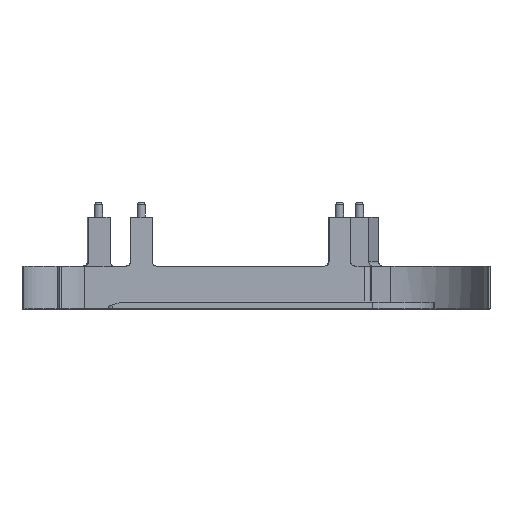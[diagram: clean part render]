
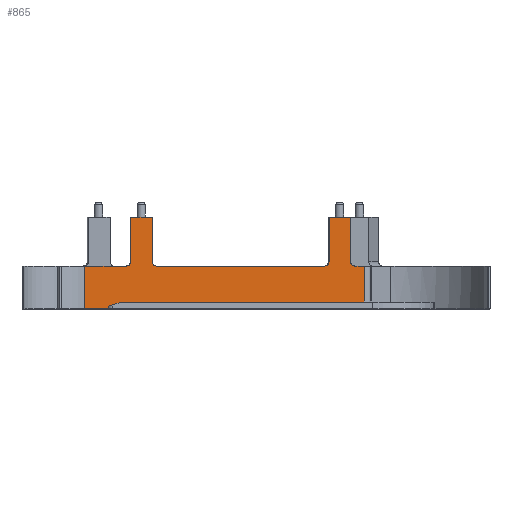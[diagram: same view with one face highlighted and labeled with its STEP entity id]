
A CAD part, front view. The second image highlights one B-rep face of the part: STEP entity #865.
In plain terms, the highlighted planar face has unit normal (0.035, -0.999, 0).
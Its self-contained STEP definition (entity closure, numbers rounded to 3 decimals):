
#601=PLANE('',#6894);
#865=ADVANCED_FACE('',(#1207),#601,.T.);
#1207=FACE_OUTER_BOUND('',#1571,.T.);
#1571=EDGE_LOOP('',(#2878,#2879,#2880,#2881,#2882,#2883,#2884,#2885,#2886,
#2887,#2888,#2889,#2890,#2891,#2892,#2893,#2894,#2895,#2896,#2897,#2898,#2899)
);
#2878=ORIENTED_EDGE('',*,*,#5341,.F.);
#2879=ORIENTED_EDGE('',*,*,#5381,.T.);
#2880=ORIENTED_EDGE('',*,*,#5362,.F.);
#2881=ORIENTED_EDGE('',*,*,#5227,.F.);
#2882=ORIENTED_EDGE('',*,*,#5358,.F.);
#2883=ORIENTED_EDGE('',*,*,#5426,.F.);
#2884=ORIENTED_EDGE('',*,*,#5428,.F.);
#2885=ORIENTED_EDGE('',*,*,#5453,.F.);
#2886=ORIENTED_EDGE('',*,*,#5289,.F.);
#2887=ORIENTED_EDGE('',*,*,#5475,.F.);
#2888=ORIENTED_EDGE('',*,*,#5479,.T.);
#2889=ORIENTED_EDGE('',*,*,#5472,.T.);
#2890=ORIENTED_EDGE('',*,*,#5277,.T.);
#2891=ORIENTED_EDGE('',*,*,#5452,.F.);
#2892=ORIENTED_EDGE('',*,*,#5286,.T.);
#2893=ORIENTED_EDGE('',*,*,#5490,.F.);
#2894=ORIENTED_EDGE('',*,*,#5491,.F.);
#2895=ORIENTED_EDGE('',*,*,#5492,.T.);
#2896=ORIENTED_EDGE('',*,*,#5281,.T.);
#2897=ORIENTED_EDGE('',*,*,#5451,.F.);
#2898=ORIENTED_EDGE('',*,*,#5427,.T.);
#2899=ORIENTED_EDGE('',*,*,#5157,.F.);
#3888=LINE('',#10071,#4434);
#3916=LINE('',#10144,#4462);
#3973=LINE('',#10270,#4519);
#3984=LINE('',#10287,#4530);
#3987=LINE('',#10291,#4533);
#3998=LINE('',#10310,#4544);
#4031=LINE('',#10370,#4577);
#4032=LINE('',#10371,#4578);
#4033=LINE('',#10372,#4579);
#4049=LINE('',#10395,#4595);
#4050=LINE('',#10396,#4596);
#4051=LINE('',#10397,#4597);
#4064=LINE('',#10417,#4610);
#4067=LINE('',#10420,#4613);
#4071=LINE('',#10424,#4617);
#4079=LINE('',#10440,#4625);
#4080=LINE('',#10441,#4626);
#4081=LINE('',#10442,#4627);
#4434=VECTOR('',#7985,1.);
#4462=VECTOR('',#8095,1.);
#4519=VECTOR('',#8258,1.);
#4530=VECTOR('',#8281,1.);
#4533=VECTOR('',#8286,1.);
#4544=VECTOR('',#8313,1.);
#4577=VECTOR('',#8360,1.);
#4578=VECTOR('',#8361,1.);
#4579=VECTOR('',#8362,1.);
#4595=VECTOR('',#8392,1.);
#4596=VECTOR('',#8393,1.);
#4597=VECTOR('',#8394,1.);
#4610=VECTOR('',#8419,1.);
#4613=VECTOR('',#8422,1.);
#4617=VECTOR('',#8426,1.);
#4625=VECTOR('',#8438,1.);
#4626=VECTOR('',#8439,1.);
#4627=VECTOR('',#8440,1.);
#5157=EDGE_CURVE('',#6127,#6126,#3888,.T.);
#5227=EDGE_CURVE('',#6196,#6197,#3916,.T.);
#5277=EDGE_CURVE('',#6247,#6250,#5791,.T.);
#5281=EDGE_CURVE('',#6254,#6252,#5792,.T.);
#5286=EDGE_CURVE('',#6256,#6257,#5795,.T.);
#5289=EDGE_CURVE('',#6260,#6262,#5796,.F.);
#5341=EDGE_CURVE('',#6297,#6127,#3973,.T.);
#5358=EDGE_CURVE('',#6308,#6196,#3984,.F.);
#5362=EDGE_CURVE('',#6197,#6311,#3987,.T.);
#5381=EDGE_CURVE('',#6297,#6311,#3998,.T.);
#5426=EDGE_CURVE('',#6339,#6308,#4031,.T.);
#5427=EDGE_CURVE('',#6351,#6126,#4032,.T.);
#5428=EDGE_CURVE('',#6350,#6339,#4033,.T.);
#5451=EDGE_CURVE('',#6351,#6252,#4049,.T.);
#5452=EDGE_CURVE('',#6256,#6250,#4050,.T.);
#5453=EDGE_CURVE('',#6262,#6350,#4051,.T.);
#5472=EDGE_CURVE('',#6362,#6247,#4064,.T.);
#5475=EDGE_CURVE('',#6359,#6260,#4067,.T.);
#5479=EDGE_CURVE('',#6359,#6362,#4071,.T.);
#5490=EDGE_CURVE('',#6370,#6257,#4079,.T.);
#5491=EDGE_CURVE('',#6367,#6370,#4080,.T.);
#5492=EDGE_CURVE('',#6367,#6254,#4081,.T.);
#5791=CIRCLE('',#6795,3.);
#5792=CIRCLE('',#6797,3.);
#5795=CIRCLE('',#6800,3.);
#5796=CIRCLE('',#6801,3.);
#6126=VERTEX_POINT('',#9794);
#6127=VERTEX_POINT('',#9795);
#6196=VERTEX_POINT('',#9864);
#6197=VERTEX_POINT('',#9865);
#6247=VERTEX_POINT('',#9915);
#6250=VERTEX_POINT('',#9918);
#6252=VERTEX_POINT('',#9920);
#6254=VERTEX_POINT('',#9922);
#6256=VERTEX_POINT('',#9924);
#6257=VERTEX_POINT('',#9925);
#6260=VERTEX_POINT('',#9928);
#6262=VERTEX_POINT('',#9930);
#6297=VERTEX_POINT('',#9965);
#6308=VERTEX_POINT('',#9976);
#6311=VERTEX_POINT('',#9979);
#6339=VERTEX_POINT('',#10007);
#6350=VERTEX_POINT('',#10018);
#6351=VERTEX_POINT('',#10019);
#6359=VERTEX_POINT('',#10027);
#6362=VERTEX_POINT('',#10030);
#6367=VERTEX_POINT('',#10035);
#6370=VERTEX_POINT('',#10038);
#6795=AXIS2_PLACEMENT_3D('',#10194,#8173,#8172);
#6797=AXIS2_PLACEMENT_3D('',#10198,#8179,#8178);
#6800=AXIS2_PLACEMENT_3D('',#10203,#8187,#8186);
#6801=AXIS2_PLACEMENT_3D('',#10206,#8191,#8190);
#6894=AXIS2_PLACEMENT_3D('',#10563,#8589,#8588);
#7985=DIRECTION('',(-0.999,-0.035,0.));
#8095=DIRECTION('',(-0.999,-0.035,0.));
#8172=DIRECTION('',(-0.999,-0.035,0.));
#8173=DIRECTION('',(-0.035,0.999,
0.));
#8178=DIRECTION('',(-0.999,-0.035,0.));
#8179=DIRECTION('',(-0.035,0.999,
0.));
#8186=DIRECTION('',(-0.999,-0.035,0.));
#8187=DIRECTION('',(-0.035,0.999,
0.));
#8190=DIRECTION('',(-0.999,-0.035,0.));
#8191=DIRECTION('',(-0.035,0.999,
0.));
#8258=DIRECTION('',(0.,0.,-1.));
#8281=DIRECTION('',(0.,0.,1.));
#8286=DIRECTION('',(0.,0.,1.));
#8313=DIRECTION('',(0.999,0.035,0.));
#8360=DIRECTION('',(-0.999,-0.035,0.));
#8361=DIRECTION('',(0.,0.,-1.));
#8362=DIRECTION('',(0.,0.,-1.));
#8392=DIRECTION('',(0.999,0.035,0.));
#8393=DIRECTION('',(0.999,0.035,0.));
#8394=DIRECTION('',(0.999,0.035,0.));
#8419=DIRECTION('',(0.,0.,-1.));
#8422=DIRECTION('',(0.,0.,-1.));
#8426=DIRECTION('',(-0.999,-0.035,0.
));
#8438=DIRECTION('',(0.,0.,-1.));
#8439=DIRECTION('',(0.999,0.035,0.));
#8440=DIRECTION('',(0.,0.,-1.));
#8588=DIRECTION('',(-0.999,-0.035,0.));
#8589=DIRECTION('',(0.035,-0.999,0.
));
#9794=CARTESIAN_POINT('',(-4.295,-264.75,-62.75));
#9795=CARTESIAN_POINT('',(25.04,-263.726,-62.75));
#9864=CARTESIAN_POINT('',(175.014,-258.488,-62.75));
#9865=CARTESIAN_POINT('',(42.062,-263.131,-62.75));
#9915=CARTESIAN_POINT('',(165.7,-258.814,-30.));
#9918=CARTESIAN_POINT('',(162.702,-258.918,-33.));
#9920=CARTESIAN_POINT('',(24.783,-263.735,-33.));
#9922=CARTESIAN_POINT('',(27.782,-263.63,-30.));
#9924=CARTESIAN_POINT('',(45.771,-263.002,-33.));
#9925=CARTESIAN_POINT('',(42.772,-263.106,-30.));
#9928=CARTESIAN_POINT('',(180.691,-258.29,-30.));
#9930=CARTESIAN_POINT('',(183.689,-258.185,-33.));
#9965=CARTESIAN_POINT('',(25.04,-263.726,-58.));
#9976=CARTESIAN_POINT('',(175.014,-258.488,-58.));
#9979=CARTESIAN_POINT('',(42.062,-263.131,-58.));
#10007=CARTESIAN_POINT('',(190.186,-257.959,-58.));
#10018=CARTESIAN_POINT('',(190.186,-257.959,-33.));
#10019=CARTESIAN_POINT('',(-4.295,-264.75,-33.));
#10027=CARTESIAN_POINT('',(180.691,-258.29,1.
));
#10030=CARTESIAN_POINT('',(165.7,-258.814,1.
));
#10035=CARTESIAN_POINT('',(27.782,-263.63,1.
));
#10038=CARTESIAN_POINT('',(42.772,-263.106,1.
));
#10071=CARTESIAN_POINT('',(-4.295,-264.75,-62.75));
#10144=CARTESIAN_POINT('',(-4.295,-264.75,-62.75));
#10194=CARTESIAN_POINT('',(162.702,-258.918,-30.));
#10198=CARTESIAN_POINT('',(24.783,-263.735,-30.));
#10203=CARTESIAN_POINT('',(45.771,-263.002,-30.));
#10206=CARTESIAN_POINT('',(183.689,-258.185,-30.));
#10270=CARTESIAN_POINT('',(25.04,-263.726,-63.));
#10287=CARTESIAN_POINT('',(175.014,-258.488,-33.));
#10291=CARTESIAN_POINT('',(42.062,-263.131,-58.));
#10310=CARTESIAN_POINT('',(1.997,-264.53,-58.));
#10370=CARTESIAN_POINT('',(218.831,-256.958,-58.));
#10371=CARTESIAN_POINT('',(-4.295,-264.75,-33.));
#10372=CARTESIAN_POINT('',(190.186,-257.959,-33.));
#10395=CARTESIAN_POINT('',(-4.295,-264.75,-33.));
#10396=CARTESIAN_POINT('',(-4.295,-264.75,-33.));
#10397=CARTESIAN_POINT('',(-4.295,-264.75,-33.));
#10417=CARTESIAN_POINT('',(165.7,-258.814,1.
));
#10420=CARTESIAN_POINT('',(180.691,-258.29,1.
));
#10424=CARTESIAN_POINT('',(180.691,-258.29,1.
));
#10440=CARTESIAN_POINT('',(42.772,-263.106,1.
));
#10441=CARTESIAN_POINT('',(27.782,-263.63,1.
));
#10442=CARTESIAN_POINT('',(27.782,-263.63,1.
));
#10563=CARTESIAN_POINT('',(-4.295,-264.75,-33.));
